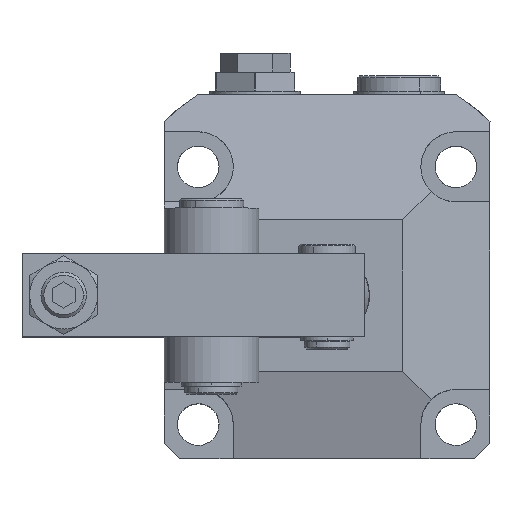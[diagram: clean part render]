
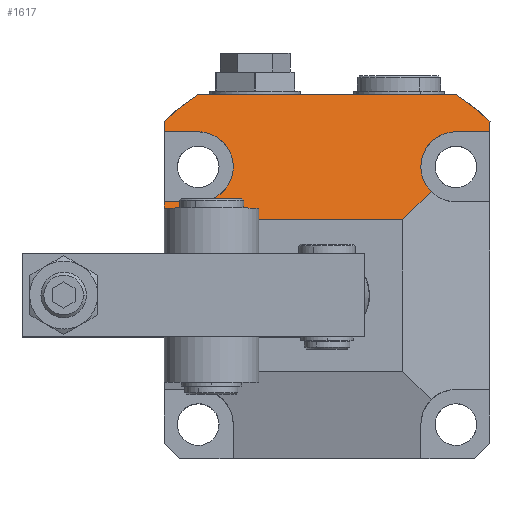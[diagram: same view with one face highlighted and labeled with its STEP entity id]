
A CAD part, top view. The second image highlights one B-rep face of the part: STEP entity #1617.
In plain terms, the highlighted planar face has unit normal (0, 0.259, 0.966).
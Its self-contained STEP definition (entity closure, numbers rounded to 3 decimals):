
#1474=AXIS2_PLACEMENT_3D('Plane Axis2P3D',#1471,#1472,#1473) ;
#1017=CARTESIAN_POINT('Vertex',(34.059,53.,86.158)) ;
#1033=CARTESIAN_POINT('Vertex',(-34.059,53.,86.158)) ;
#1036=CARTESIAN_POINT('Line Origine',(0.,53.,86.158)) ;
#1430=CARTESIAN_POINT('Vertex',(43.,46.043,88.022)) ;
#1434=CARTESIAN_POINT('Control Point',(34.059,53.,86.158)) ;
#1435=CARTESIAN_POINT('Control Point',(37.249,50.95,86.707)) ;
#1436=CARTESIAN_POINT('Control Point',(40.245,48.616,87.332)) ;
#1437=CARTESIAN_POINT('Control Point',(43.,46.043,88.022)) ;
#1455=CARTESIAN_POINT('Vertex',(-43.,46.043,88.022)) ;
#1459=CARTESIAN_POINT('Control Point',(-34.059,53.,86.158)) ;
#1460=CARTESIAN_POINT('Control Point',(-37.249,50.95,86.707)) ;
#1461=CARTESIAN_POINT('Control Point',(-40.245,48.616,87.332)) ;
#1462=CARTESIAN_POINT('Control Point',(-43.,46.043,88.022)) ;
#1471=CARTESIAN_POINT('Axis2P3D Location',(0.,91.171,75.93)) ;
#1476=CARTESIAN_POINT('Line Origine',(43.,44.647,88.396)) ;
#1480=CARTESIAN_POINT('Vertex',(43.,43.25,88.77)) ;
#1483=CARTESIAN_POINT('Line Origine',(-43.,44.647,88.396)) ;
#1487=CARTESIAN_POINT('Vertex',(-43.,43.25,88.77)) ;
#1490=CARTESIAN_POINT('Line Origine',(-38.5,43.25,88.77)) ;
#1494=CARTESIAN_POINT('Vertex',(-34.,43.25,88.77)) ;
#1498=CARTESIAN_POINT('Control Point',(-29.565,42.118,89.074)) ;
#1499=CARTESIAN_POINT('Control Point',(-30.333,42.537,88.961)) ;
#1500=CARTESIAN_POINT('Control Point',(-31.152,42.867,88.873)) ;
#1501=CARTESIAN_POINT('Control Point',(-32.01,43.098,88.811)) ;
#1502=CARTESIAN_POINT('Control Point',(-32.935,43.232,88.775)) ;
#1503=CARTESIAN_POINT('Control Point',(-33.862,43.249,88.77)) ;
#1504=CARTESIAN_POINT('Control Point',(-33.908,43.25,88.77)) ;
#1505=CARTESIAN_POINT('Control Point',(-33.954,43.25,88.77)) ;
#1506=CARTESIAN_POINT('Control Point',(-34.,43.25,88.77)) ;
#1507=CARTESIAN_POINT('Vertex',(-29.565,42.118,89.074)) ;
#1511=CARTESIAN_POINT('Control Point',(-29.565,42.118,89.074)) ;
#1512=CARTESIAN_POINT('Control Point',(-28.783,41.691,89.188)) ;
#1513=CARTESIAN_POINT('Control Point',(-28.056,41.171,89.327)) ;
#1514=CARTESIAN_POINT('Control Point',(-27.397,40.568,89.489)) ;
#1515=CARTESIAN_POINT('Control Point',(-26.228,39.21,89.853)) ;
#1516=CARTESIAN_POINT('Control Point',(-25.42,37.625,90.277)) ;
#1517=CARTESIAN_POINT('Control Point',(-25.111,36.781,90.504)) ;
#1518=CARTESIAN_POINT('Control Point',(-24.7,35.035,90.971)) ;
#1519=CARTESIAN_POINT('Control Point',(-24.716,33.245,91.451)) ;
#1520=CARTESIAN_POINT('Control Point',(-24.832,32.351,91.69)) ;
#1521=CARTESIAN_POINT('Control Point',(-25.274,30.622,92.154)) ;
#1522=CARTESIAN_POINT('Control Point',(-26.118,29.039,92.578)) ;
#1523=CARTESIAN_POINT('Control Point',(-26.63,28.304,92.775)) ;
#1524=CARTESIAN_POINT('Control Point',(-27.813,26.982,93.129)) ;
#1525=CARTESIAN_POINT('Control Point',(-29.286,25.968,93.401)) ;
#1526=CARTESIAN_POINT('Control Point',(-30.073,25.554,93.512)) ;
#1527=CARTESIAN_POINT('Control Point',(-31.329,25.077,93.64)) ;
#1528=CARTESIAN_POINT('Control Point',(-32.647,24.833,93.705)) ;
#1529=CARTESIAN_POINT('Control Point',(-33.097,24.778,93.72)) ;
#1530=CARTESIAN_POINT('Control Point',(-33.548,24.75,93.727)) ;
#1531=CARTESIAN_POINT('Control Point',(-34.,24.75,93.727)) ;
#1532=CARTESIAN_POINT('Vertex',(-34.,24.75,93.727)) ;
#1535=CARTESIAN_POINT('Line Origine',(-38.5,24.75,93.727)) ;
#1539=CARTESIAN_POINT('Vertex',(-43.,24.75,93.727)) ;
#1542=CARTESIAN_POINT('Line Origine',(-43.,22.375,94.364)) ;
#1546=CARTESIAN_POINT('Vertex',(-43.,20.,95.)) ;
#1549=CARTESIAN_POINT('Line Origine',(-11.5,20.,95.)) ;
#1553=CARTESIAN_POINT('Vertex',(20.,20.,95.)) ;
#1556=CARTESIAN_POINT('Line Origine',(23.73,23.73,94.001)) ;
#1560=CARTESIAN_POINT('Vertex',(27.459,27.459,93.001)) ;
#1564=CARTESIAN_POINT('Control Point',(27.459,27.459,93.001)) ;
#1565=CARTESIAN_POINT('Control Point',(26.826,28.092,92.832)) ;
#1566=CARTESIAN_POINT('Control Point',(26.273,28.799,92.642)) ;
#1567=CARTESIAN_POINT('Control Point',(25.809,29.566,92.437)) ;
#1568=CARTESIAN_POINT('Control Point',(25.071,31.202,91.999)) ;
#1569=CARTESIAN_POINT('Control Point',(24.744,32.958,91.528)) ;
#1570=CARTESIAN_POINT('Control Point',(24.686,33.857,91.287)) ;
#1571=CARTESIAN_POINT('Control Point',(24.772,35.351,90.887)) ;
#1572=CARTESIAN_POINT('Control Point',(25.153,36.796,90.499)) ;
#1573=CARTESIAN_POINT('Control Point',(25.351,37.361,90.348)) ;
#1574=CARTESIAN_POINT('Control Point',(25.595,37.909,90.201)) ;
#1575=CARTESIAN_POINT('Control Point',(25.882,38.435,90.06)) ;
#1576=CARTESIAN_POINT('Vertex',(25.882,38.435,90.06)) ;
#1580=CARTESIAN_POINT('Control Point',(25.882,38.435,90.06)) ;
#1581=CARTESIAN_POINT('Control Point',(26.303,39.206,89.854)) ;
#1582=CARTESIAN_POINT('Control Point',(26.818,39.929,89.66)) ;
#1583=CARTESIAN_POINT('Control Point',(27.418,40.591,89.483)) ;
#1584=CARTESIAN_POINT('Control Point',(28.759,41.75,89.172)) ;
#1585=CARTESIAN_POINT('Control Point',(30.347,42.567,88.953)) ;
#1586=CARTESIAN_POINT('Control Point',(31.18,42.876,88.87)) ;
#1587=CARTESIAN_POINT('Control Point',(32.256,43.135,88.801)) ;
#1588=CARTESIAN_POINT('Control Point',(33.352,43.231,88.775)) ;
#1589=CARTESIAN_POINT('Control Point',(33.568,43.244,88.772)) ;
#1590=CARTESIAN_POINT('Control Point',(33.784,43.25,88.77)) ;
#1591=CARTESIAN_POINT('Control Point',(34.,43.25,88.77)) ;
#1592=CARTESIAN_POINT('Vertex',(34.,43.25,88.77)) ;
#1595=CARTESIAN_POINT('Line Origine',(38.5,43.25,88.77)) ;
#1037=DIRECTION('Vector Direction',(1.,0.,0.)) ;
#1472=DIRECTION('Axis2P3D Direction',(-0.,-0.259,-0.966)) ;
#1473=DIRECTION('Axis2P3D XDirection',(0.,-0.966,0.259)) ;
#1477=DIRECTION('Vector Direction',(0.,-0.966,0.259)) ;
#1484=DIRECTION('Vector Direction',(0.,-0.966,0.259)) ;
#1491=DIRECTION('Vector Direction',(-1.,0.,0.)) ;
#1536=DIRECTION('Vector Direction',(-1.,0.,0.)) ;
#1543=DIRECTION('Vector Direction',(0.,-0.966,0.259)) ;
#1550=DIRECTION('Vector Direction',(-1.,0.,0.)) ;
#1557=DIRECTION('Vector Direction',(0.695,0.695,-0.186)) ;
#1596=DIRECTION('Vector Direction',(1.,0.,0.)) ;
#1038=VECTOR('Line Direction',#1037,1.) ;
#1478=VECTOR('Line Direction',#1477,1.) ;
#1485=VECTOR('Line Direction',#1484,1.) ;
#1492=VECTOR('Line Direction',#1491,1.) ;
#1537=VECTOR('Line Direction',#1536,1.) ;
#1544=VECTOR('Line Direction',#1543,1.) ;
#1551=VECTOR('Line Direction',#1550,1.) ;
#1558=VECTOR('Line Direction',#1557,1.) ;
#1597=VECTOR('Line Direction',#1596,1.) ;
#1601=ORIENTED_EDGE('',*,*,#1482,.F.) ;
#1602=ORIENTED_EDGE('',*,*,#1438,.F.) ;
#1603=ORIENTED_EDGE('',*,*,#1040,.F.) ;
#1604=ORIENTED_EDGE('',*,*,#1463,.T.) ;
#1605=ORIENTED_EDGE('',*,*,#1489,.T.) ;
#1606=ORIENTED_EDGE('',*,*,#1496,.F.) ;
#1607=ORIENTED_EDGE('',*,*,#1509,.F.) ;
#1608=ORIENTED_EDGE('',*,*,#1534,.T.) ;
#1609=ORIENTED_EDGE('',*,*,#1541,.T.) ;
#1610=ORIENTED_EDGE('',*,*,#1548,.T.) ;
#1611=ORIENTED_EDGE('',*,*,#1555,.F.) ;
#1612=ORIENTED_EDGE('',*,*,#1562,.T.) ;
#1613=ORIENTED_EDGE('',*,*,#1578,.T.) ;
#1614=ORIENTED_EDGE('',*,*,#1594,.T.) ;
#1615=ORIENTED_EDGE('',*,*,#1599,.T.) ;
#1617=ADVANCED_FACE('Manifold Brep',(#1616),#1475,.F.) ;
#1433=B_SPLINE_CURVE_WITH_KNOTS('',3,(#1434,#1435,#1436,#1437),.UNSPECIFIED.,.F.,.U.,(4,4),(0.,16.27),.UNSPECIFIED.) ;
#1458=B_SPLINE_CURVE_WITH_KNOTS('',3,(#1459,#1460,#1461,#1462),.UNSPECIFIED.,.F.,.U.,(4,4),(0.,16.27),.UNSPECIFIED.) ;
#1497=B_SPLINE_CURVE_WITH_KNOTS('',5,(#1498,#1499,#1500,#1501,#1502,#1503,#1504,#1505,#1506),.UNSPECIFIED.,.F.,.U.,(6,3,6),(0.,6.249,6.575),.UNSPECIFIED.) ;
#1510=B_SPLINE_CURVE_WITH_KNOTS('',5,(#1511,#1512,#1513,#1514,#1515,#1516,#1517,#1518,#1519,#1520,#1521,#1522,#1523,#1524,#1525,#1526,#1527,#1528,#1529,#1530,#1531),.UNSPECIFIED.,.F.,.U.,(6,3,3,3,3,3,6),(0.,6.365,12.871,19.414,25.849,32.14,35.342),.UNSPECIFIED.) ;
#1563=B_SPLINE_CURVE_WITH_KNOTS('',5,(#1564,#1565,#1566,#1567,#1568,#1569,#1570,#1571,#1572,#1573,#1574,#1575),.UNSPECIFIED.,.F.,.U.,(6,3,3,6),(0.,6.454,13.,17.359),.UNSPECIFIED.) ;
#1579=B_SPLINE_CURVE_WITH_KNOTS('',5,(#1580,#1581,#1582,#1583,#1584,#1585,#1586,#1587,#1588,#1589,#1590,#1591),.UNSPECIFIED.,.F.,.U.,(6,3,3,6),(0.,6.395,12.658,14.189),.UNSPECIFIED.) ;
#1040=EDGE_CURVE('',#1034,#1018,#1039,.T.) ;
#1438=EDGE_CURVE('',#1018,#1431,#1433,.T.) ;
#1463=EDGE_CURVE('',#1034,#1456,#1458,.T.) ;
#1482=EDGE_CURVE('',#1431,#1481,#1479,.T.) ;
#1489=EDGE_CURVE('',#1456,#1488,#1486,.T.) ;
#1496=EDGE_CURVE('',#1495,#1488,#1493,.T.) ;
#1509=EDGE_CURVE('',#1508,#1495,#1497,.T.) ;
#1534=EDGE_CURVE('',#1508,#1533,#1510,.T.) ;
#1541=EDGE_CURVE('',#1533,#1540,#1538,.T.) ;
#1548=EDGE_CURVE('',#1540,#1547,#1545,.T.) ;
#1555=EDGE_CURVE('',#1554,#1547,#1552,.T.) ;
#1562=EDGE_CURVE('',#1554,#1561,#1559,.T.) ;
#1578=EDGE_CURVE('',#1561,#1577,#1563,.T.) ;
#1594=EDGE_CURVE('',#1577,#1593,#1579,.T.) ;
#1599=EDGE_CURVE('',#1593,#1481,#1598,.T.) ;
#1600=EDGE_LOOP('',(#1601,#1602,#1603,#1604,#1605,#1606,#1607,#1608,#1609,#1610,#1611,#1612,#1613,#1614,#1615)) ;
#1616=FACE_OUTER_BOUND('',#1600,.T.) ;
#1039=LINE('Line',#1036,#1038) ;
#1479=LINE('Line',#1476,#1478) ;
#1486=LINE('Line',#1483,#1485) ;
#1493=LINE('Line',#1490,#1492) ;
#1538=LINE('Line',#1535,#1537) ;
#1545=LINE('Line',#1542,#1544) ;
#1552=LINE('Line',#1549,#1551) ;
#1559=LINE('Line',#1556,#1558) ;
#1598=LINE('Line',#1595,#1597) ;
#1475=PLANE('Plane',#1474) ;
#1018=VERTEX_POINT('',#1017) ;
#1034=VERTEX_POINT('',#1033) ;
#1431=VERTEX_POINT('',#1430) ;
#1456=VERTEX_POINT('',#1455) ;
#1481=VERTEX_POINT('',#1480) ;
#1488=VERTEX_POINT('',#1487) ;
#1495=VERTEX_POINT('',#1494) ;
#1508=VERTEX_POINT('',#1507) ;
#1533=VERTEX_POINT('',#1532) ;
#1540=VERTEX_POINT('',#1539) ;
#1547=VERTEX_POINT('',#1546) ;
#1554=VERTEX_POINT('',#1553) ;
#1561=VERTEX_POINT('',#1560) ;
#1577=VERTEX_POINT('',#1576) ;
#1593=VERTEX_POINT('',#1592) ;
